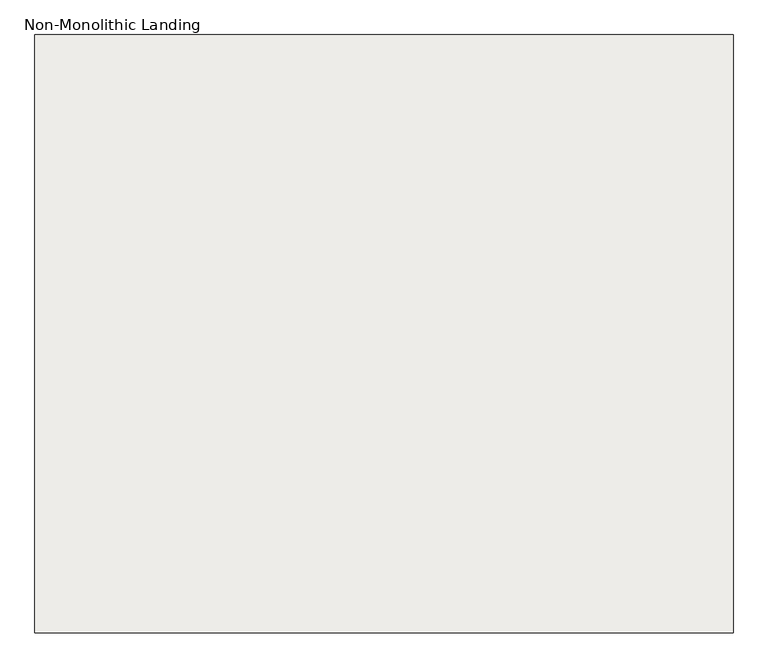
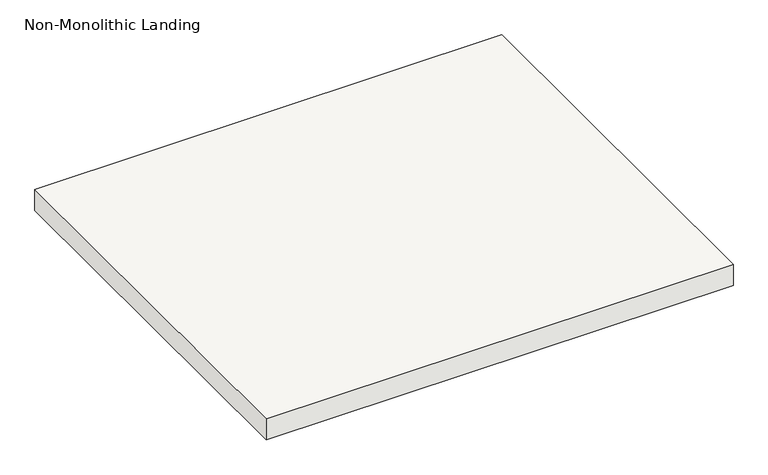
"""IFC4 building model written with IfcOpenShell, lengths in millimetres: slab geometry, Non-Monolithic Landing."""

from ifc_helpers import new_model, si_unit, frame, origin, place, context, project, spatial, polyline, outline, extrude, source, transform, mapped, element, save


def non_monolithic_landing_78137b62(model_context):
    return source(origin(), model_context, "Body", "SweptSolid", [
        extrude(outline(polyline([(113025.7384933, -34610.1173894), (114092.5384933, -34610.1173894), (114092.5384933, -35524.5173894), (113025.7384933, -35524.5173894), (113025.7384933, -34610.1173894)])), frame((0.0, 0.0, 2195.0947368), z_axis=(0.0, 0.0, 1.0), x_axis=(1.0, 0.0, 0.0)), (0.0, 0.0, 1.0), 50.8),
    ])


if __name__ == "__main__":
    model = new_model("IFC4")
    model_context = context("Model", 3, world=origin())
    ifc_project = project(units=[si_unit("LENGTHUNIT", "METRE", prefix="MILLI")], contexts=[model_context])
    site = spatial("IfcSite", under=ifc_project)
    building = spatial("IfcBuilding", under=site)
    placement = place(None, origin())
    non_monolithic_landing_shape = non_monolithic_landing_78137b62(model_context)
    element("IfcSlab", 1, ObjectType="Non-Monolithic Landing", at=placement, inside=building, context=model_context, shape_type="MappedRepresentation", body=[
        mapped(non_monolithic_landing_shape, transform((0.0, 0.0, 0.0), x_axis=(1.0, 0.0, 0.0), y_axis=(0.0, 1.0, 0.0), z_axis=(0.0, 0.0, 1.0))),
    ])
    save(model, "model.ifc")
